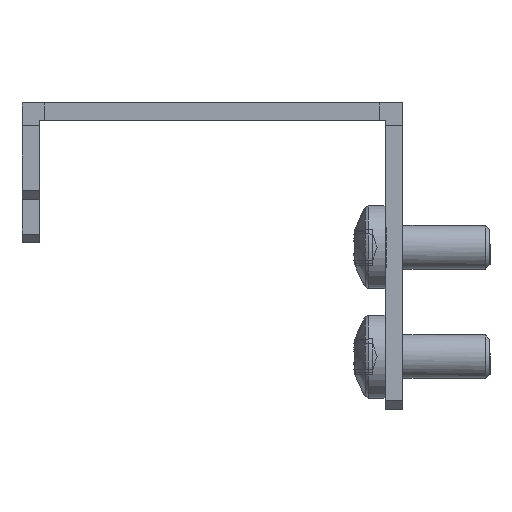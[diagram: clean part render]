
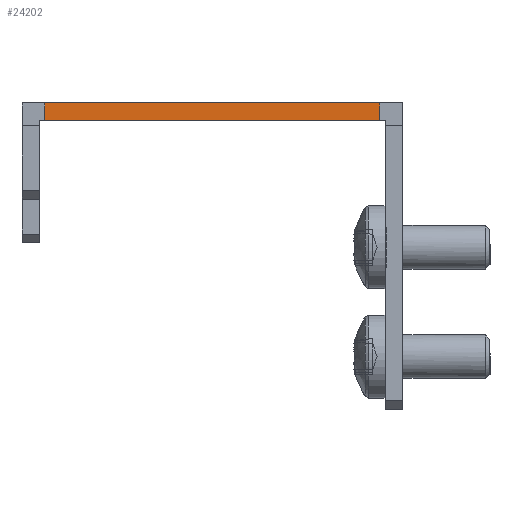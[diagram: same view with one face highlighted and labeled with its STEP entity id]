
A CAD part, left-side view. The second image highlights one B-rep face of the part: STEP entity #24202.
In plain terms, the highlighted planar face has unit normal (-1, 0, 0) as drawn and (1, 0, 0) by its records, which use the part's own axes.
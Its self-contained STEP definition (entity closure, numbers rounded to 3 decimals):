
#17162 = VERTEX_POINT('',#17163);
#17163 = CARTESIAN_POINT('',(681.,19.15,-2.));
#17169 = EDGE_CURVE('',#17170,#17162,#17172,.T.);
#17170 = VERTEX_POINT('',#17171);
#17171 = CARTESIAN_POINT('',(681.,-19.15,-2.));
#17172 = LINE('',#17173,#17174);
#17173 = CARTESIAN_POINT('',(681.,-21.75,-2.));
#17174 = VECTOR('',#17175,1.);
#17175 = DIRECTION('',(0.,1.,0.));
#23682 = VERTEX_POINT('',#23683);
#23683 = CARTESIAN_POINT('',(681.,-19.15,0.));
#23689 = EDGE_CURVE('',#23682,#23690,#23692,.T.);
#23690 = VERTEX_POINT('',#23691);
#23691 = CARTESIAN_POINT('',(681.,19.15,0.));
#23692 = LINE('',#23693,#23694);
#23693 = CARTESIAN_POINT('',(681.,-21.75,0.));
#23694 = VECTOR('',#23695,1.);
#23695 = DIRECTION('',(0.,1.,0.));
#24202 = ADVANCED_FACE('',(#24203),#24219,.T.);
#24203 = FACE_BOUND('',#24204,.T.);
#24204 = EDGE_LOOP('',(#24205,#24211,#24212,#24218));
#24205 = ORIENTED_EDGE('',*,*,#24206,.F.);
#24206 = EDGE_CURVE('',#17170,#23682,#24207,.T.);
#24207 = LINE('',#24208,#24209);
#24208 = CARTESIAN_POINT('',(681.,-19.15,-2.));
#24209 = VECTOR('',#24210,1.);
#24210 = DIRECTION('',(0.,0.,1.));
#24211 = ORIENTED_EDGE('',*,*,#17169,.T.);
#24212 = ORIENTED_EDGE('',*,*,#24213,.T.);
#24213 = EDGE_CURVE('',#17162,#23690,#24214,.T.);
#24214 = LINE('',#24215,#24216);
#24215 = CARTESIAN_POINT('',(681.,19.15,-2.));
#24216 = VECTOR('',#24217,1.);
#24217 = DIRECTION('',(0.,0.,1.));
#24218 = ORIENTED_EDGE('',*,*,#23689,.F.);
#24219 = PLANE('',#24220);
#24220 = AXIS2_PLACEMENT_3D('',#24221,#24222,#24223);
#24221 = CARTESIAN_POINT('',(681.,-21.75,-2.));
#24222 = DIRECTION('',(1.,0.,0.));
#24223 = DIRECTION('',(0.,0.,-1.));
